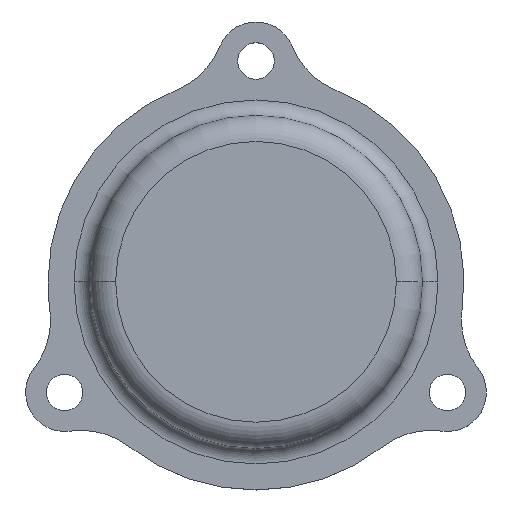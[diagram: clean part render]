
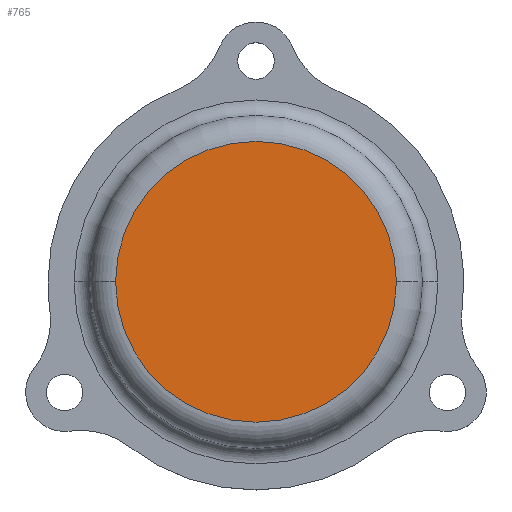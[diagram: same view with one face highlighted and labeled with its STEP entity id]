
A CAD part, top view. The second image highlights one B-rep face of the part: STEP entity #765.
In plain terms, the highlighted planar face has unit normal (0, 0, 1).
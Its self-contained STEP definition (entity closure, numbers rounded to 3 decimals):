
#31 = ORIENTED_EDGE ( 'NONE', *, *, #529, .T. ) ;
#38 = ORIENTED_EDGE ( 'NONE', *, *, #640, .T. ) ;
#92 = CIRCLE ( 'NONE', #735, 27. ) ;
#139 = VERTEX_POINT ( 'NONE', #885 ) ;
#171 = CIRCLE ( 'NONE', #531, 27. ) ;
#343 = EDGE_LOOP ( 'NONE', ( #38, #31 ) ) ;
#364 = FACE_OUTER_BOUND ( 'NONE', #343, .T. ) ;
#477 = VERTEX_POINT ( 'NONE', #932 ) ;
#529 = EDGE_CURVE ( 'NONE', #139, #477, #92, .T. ) ;
#531 = AXIS2_PLACEMENT_3D ( 'NONE', #948, #822, #978 ) ;
#605 = AXIS2_PLACEMENT_3D ( 'NONE', #1149, #1069, #1183 ) ;
#640 = EDGE_CURVE ( 'NONE', #477, #139, #171, .T. ) ;
#735 = AXIS2_PLACEMENT_3D ( 'NONE', #974, #891, #1024 ) ;
#765 = ADVANCED_FACE ( 'NONE', ( #364 ), #1176, .T. ) ;
#822 = DIRECTION ( 'NONE',  ( 0., 0., 1. ) ) ;
#885 = CARTESIAN_POINT ( 'NONE',  ( -27., 0., 24. ) ) ;
#891 = DIRECTION ( 'NONE',  ( 0., 0., 1. ) ) ;
#932 = CARTESIAN_POINT ( 'NONE',  ( 27., 0., 24. ) ) ;
#948 = CARTESIAN_POINT ( 'NONE',  ( 0., 0., 24. ) ) ;
#974 = CARTESIAN_POINT ( 'NONE',  ( 0., 0., 24. ) ) ;
#978 = DIRECTION ( 'NONE',  ( 1., 0., 0. ) ) ;
#1024 = DIRECTION ( 'NONE',  ( 1., 0., 0. ) ) ;
#1069 = DIRECTION ( 'NONE',  ( 0., 0., 1. ) ) ;
#1149 = CARTESIAN_POINT ( 'NONE',  ( 0., 0., 24. ) ) ;
#1176 = PLANE ( 'NONE',  #605 ) ;
#1183 = DIRECTION ( 'NONE',  ( 1., 0., 0. ) ) ;
